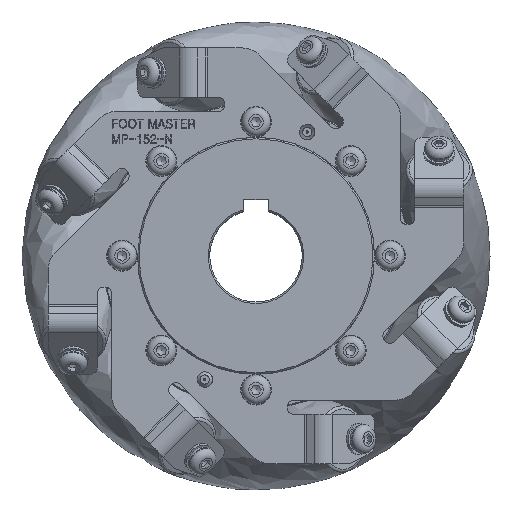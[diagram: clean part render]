
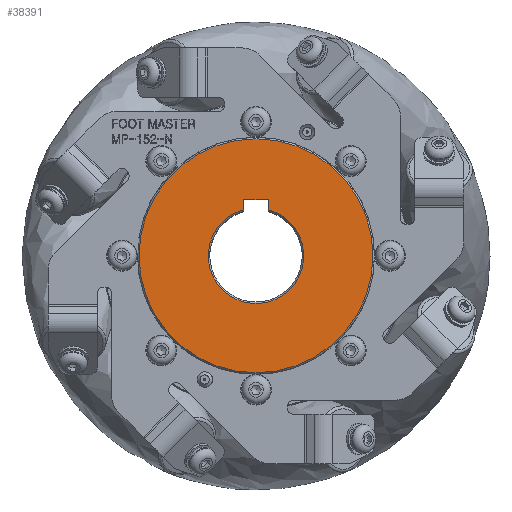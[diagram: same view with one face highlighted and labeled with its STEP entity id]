
A CAD part, top view. The second image highlights one B-rep face of the part: STEP entity #38391.
In plain terms, the highlighted planar face has unit normal (0, 0, 1).
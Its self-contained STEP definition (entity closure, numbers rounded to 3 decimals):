
#1701=CIRCLE('',#40760,15.5);
#1702=CIRCLE('',#40762,38.);
#2676=FACE_BOUND('',#6887,.T.);
#4599=FACE_OUTER_BOUND('',#6886,.T.);
#6886=EDGE_LOOP('',(#31431));
#6887=EDGE_LOOP('',(#31432,#31433,#31434,#31435));
#10760=LINE('',#65549,#13468);
#10763=LINE('',#65559,#13471);
#10767=LINE('',#65573,#13475);
#13468=VECTOR('',#47025,10.);
#13471=VECTOR('',#47030,10.);
#13475=VECTOR('',#47036,10.);
#17166=VERTEX_POINT('',#65544);
#17167=VERTEX_POINT('',#65548);
#17170=VERTEX_POINT('',#65558);
#17172=VERTEX_POINT('',#65564);
#17174=VERTEX_POINT('',#65577);
#22179=EDGE_CURVE('',#17167,#17166,#10760,.T.);
#22183=EDGE_CURVE('',#17170,#17167,#10763,.T.);
#22189=EDGE_CURVE('',#17172,#17170,#10767,.T.);
#22190=EDGE_CURVE('',#17172,#17166,#1701,.T.);
#22191=EDGE_CURVE('',#17174,#17174,#1702,.T.);
#31431=ORIENTED_EDGE('',*,*,#22191,.F.);
#31432=ORIENTED_EDGE('',*,*,#22190,.F.);
#31433=ORIENTED_EDGE('',*,*,#22189,.T.);
#31434=ORIENTED_EDGE('',*,*,#22183,.T.);
#31435=ORIENTED_EDGE('',*,*,#22179,.T.);
#36634=PLANE('',#40761);
#38391=ADVANCED_FACE('',(#4599,#2676),#36634,.T.);
#40760=AXIS2_PLACEMENT_3D('',#65575,#47039,#47040);
#40761=AXIS2_PLACEMENT_3D('',#65576,#47041,#47042);
#40762=AXIS2_PLACEMENT_3D('',#65578,#47043,#47044);
#47025=DIRECTION('',(0.,-1.,0.));
#47030=DIRECTION('',(1.,0.,0.));
#47036=DIRECTION('',(0.,1.,0.));
#47039=DIRECTION('center_axis',(0.,0.,
1.));
#47040=DIRECTION('ref_axis',(1.,0.,0.));
#47041=DIRECTION('center_axis',(0.,0.,
1.));
#47042=DIRECTION('ref_axis',(1.,0.,0.));
#47043=DIRECTION('center_axis',(0.,0.,
-1.));
#47044=DIRECTION('ref_axis',(-1.,0.,0.));
#65544=CARTESIAN_POINT('',(4.,14.975,40.));
#65548=CARTESIAN_POINT('',(4.,18.3,40.));
#65549=CARTESIAN_POINT('',(4.,9.15,40.));
#65558=CARTESIAN_POINT('',(-4.,18.3,40.));
#65559=CARTESIAN_POINT('',(-2.,18.3,40.));
#65564=CARTESIAN_POINT('',(-4.,14.975,40.));
#65573=CARTESIAN_POINT('',(-4.,7.228,40.));
#65575=CARTESIAN_POINT('Origin',(0.,0.,
40.));
#65576=CARTESIAN_POINT('Origin',(0.,0.,
40.));
#65577=CARTESIAN_POINT('',(38.,0.,40.));
#65578=CARTESIAN_POINT('Origin',(0.,0.,
40.));
